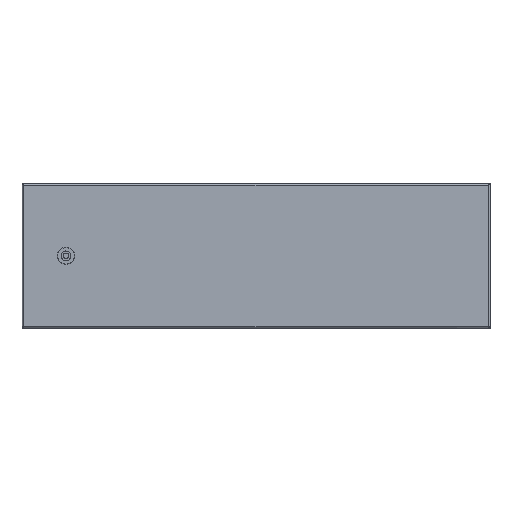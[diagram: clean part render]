
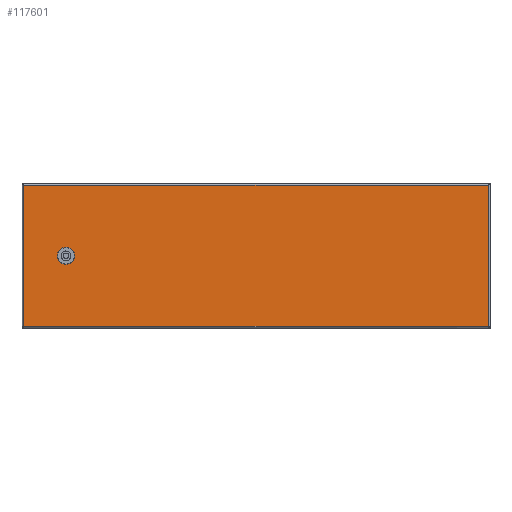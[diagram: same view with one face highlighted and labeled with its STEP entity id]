
A CAD part, top view. The second image highlights one B-rep face of the part: STEP entity #117601.
In plain terms, the highlighted planar face has unit normal (0, 0, 1).
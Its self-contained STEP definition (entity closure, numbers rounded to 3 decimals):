
#115321=CARTESIAN_POINT(' ',(791.2,242.2,0.));
#115326=DIRECTION(' ',(-1.,0.,0.));
#115331=VECTOR(' ',#115326,1.);
#115336=LINE('',#115321,#115331);
#115341=CARTESIAN_POINT(' ',(791.2,242.2,0.));
#115342=VERTEX_POINT(' ',#115341);
#115346=CARTESIAN_POINT(' ',(2.8,242.2,0.));
#115347=VERTEX_POINT(' ',#115346);
#115351=EDGE_CURVE(' ',#115342,#115347,#115336,.T.);
#117461=DIRECTION(' ',(-0.,-0.,1.));
#117466=CARTESIAN_POINT(' ',(791.2,2.8,0.));
#117471=DIRECTION(' ',(0.,1.,0.));
#117476=AXIS2_PLACEMENT_3D(' ',#117466,#117461,#117471);
#117481=PLANE('NONE',#117476);
#117486=CARTESIAN_POINT(' ',(2.8,2.8,0.));
#117491=DIRECTION(' ',(1.,0.,0.));
#117496=VECTOR(' ',#117491,1.);
#117501=LINE('',#117486,#117496);
#117506=CARTESIAN_POINT(' ',(2.8,2.8,0.));
#117507=VERTEX_POINT(' ',#117506);
#117511=CARTESIAN_POINT(' ',(791.2,2.8,0.));
#117512=VERTEX_POINT(' ',#117511);
#117516=EDGE_CURVE(' ',#117507,#117512,#117501,.T.);
#117521=ORIENTED_EDGE(' ',*,*,#117516,.T.);
#117526=CARTESIAN_POINT(' ',(791.2,242.2,0.));
#117531=DIRECTION(' ',(0.,-1.,0.));
#117536=VECTOR(' ',#117531,1.);
#117541=LINE('',#117526,#117536);
#117546=EDGE_CURVE(' ',#115342,#117512,#117541,.T.);
#117551=ORIENTED_EDGE(' ',*,*,#117546,.F.);
#117556=ORIENTED_EDGE(' ',*,*,#115351,.T.);
#117561=CARTESIAN_POINT(' ',(2.8,242.2,0.));
#117566=DIRECTION(' ',(0.,-1.,0.));
#117571=VECTOR(' ',#117566,1.);
#117576=LINE('',#117561,#117571);
#117581=EDGE_CURVE(' ',#115347,#117507,#117576,.T.);
#117586=ORIENTED_EDGE(' ',*,*,#117581,.T.);
#117591=EDGE_LOOP(' ',(#117521,#117551,#117556,#117586));
#117596=FACE_OUTER_BOUND(' ',#117591,.T.);
#117601=ADVANCED_FACE('NONE',(#117596),#117481,.T.);
